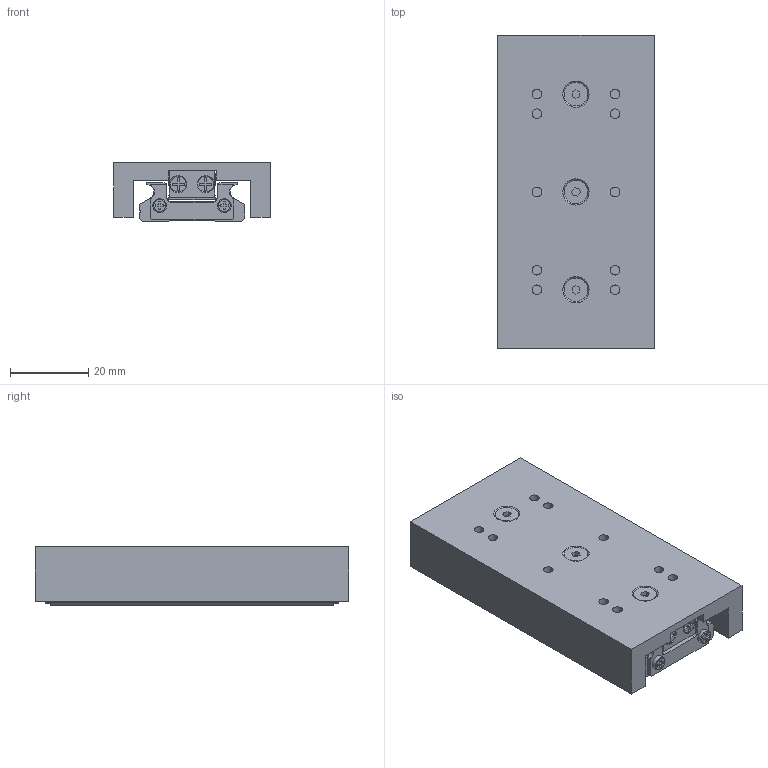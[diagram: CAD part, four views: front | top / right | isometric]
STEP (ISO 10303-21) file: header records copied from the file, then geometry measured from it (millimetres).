
FILE_DESCRIPTION(/* description */ ('MLO 40.080.069-ALU-SE'),/* implementation_level */ '2;1');
FILE_NAME(/* name */ 'ERO-078085.step',/* time_stamp */ '2025-07-02T13:13:00+02:00',/* author */ ('MM'),/* organization */ (''),/* preprocessor_version */ 'ST-DEVELOPER v19.2',/* originating_system */ 'Autodesk Inventor 2023',/* authorisation */ '');
FILE_SCHEMA (('AUTOMOTIVE_DESIGN { 1 0 10303 214 3 1 1 }'));
Length unit declared in the file: millimetre
Products named in the file (8): ERO-078085; ERO-041191; ERO-041189; ERO-041190; ERO-078086; ISO 4032 - SW5,5 - M3 - A2; ISO 10642 - M3 x  8 - A2/70; ERO-080427
Assembly tree (11 placements, depth 3):
  ERO-078085
    ERO-041191
      ERO-041189
      ERO-041190
    ERO-078086
    ISO 4032 - SW5,5 - M3 - A2  x3
    ISO 10642 - M3 x  8 - A2/70  x3
    ERO-080427
Bounding box: 40.01 x 80 x 15 mm (x, y, z)
Volume: 37568.2 mm3; surface area: 23304.4 mm2
Topology: 10 solids, 10 shells, 800 faces, 2105 edges, 1386 vertices
Faces by surface type: plane 597, cylinder 114, bspline 45, cone 37, torus 7
Full cylindrical faces by diameter (mm): 2.459 x13, 2.7 x6, 3 x3, 3.1 x6, 3.5 x10, 4 x4, 6 x9
Entity records: 24160 total; most frequent: CARTESIAN_POINT 4591, ORIENTED_EDGE 3950, DIRECTION 3604, EDGE_CURVE 1975, LINE 1582, VECTOR 1582, VERTEX_POINT 1306, AXIS2_PLACEMENT_3D 1011
